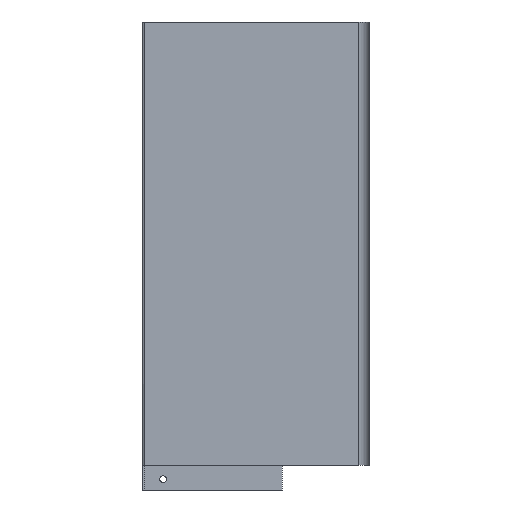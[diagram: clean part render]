
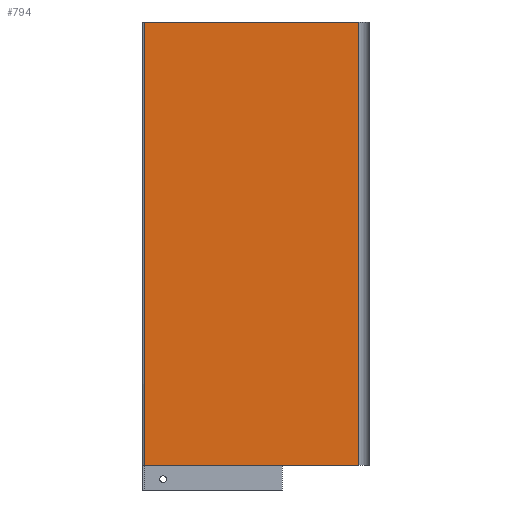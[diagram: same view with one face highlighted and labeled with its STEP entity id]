
A CAD part, left-side view. The second image highlights one B-rep face of the part: STEP entity #794.
In plain terms, the highlighted planar face has unit normal (-1, 0, 0).
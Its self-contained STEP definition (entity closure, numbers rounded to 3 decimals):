
#25 = PLANE ( 'NONE',  #335 ) ;
#65 = VECTOR ( 'NONE', #802, 1000. ) ;
#69 = ORIENTED_EDGE ( 'NONE', *, *, #395, .T. ) ;
#77 = DIRECTION ( 'NONE',  ( 0., 0., 1. ) ) ;
#96 = DIRECTION ( 'NONE',  ( 1., 0., 0. ) ) ;
#119 = VECTOR ( 'NONE', #494, 1000. ) ;
#128 = EDGE_LOOP ( 'NONE', ( #552, #556, #69, #665 ) ) ;
#233 = CARTESIAN_POINT ( 'NONE',  ( -8., 14.6, -499.403 ) ) ;
#250 = VERTEX_POINT ( 'NONE', #796 ) ;
#265 = CARTESIAN_POINT ( 'NONE',  ( -8., -144.438, -499.403 ) ) ;
#280 = EDGE_CURVE ( 'NONE', #474, #663, #871, .T. ) ;
#294 = LINE ( 'NONE', #360, #119 ) ;
#318 = CARTESIAN_POINT ( 'NONE',  ( -8., -144.438, 0. ) ) ;
#335 = AXIS2_PLACEMENT_3D ( 'NONE', #422, #96, #554 ) ;
#360 = CARTESIAN_POINT ( 'NONE',  ( -8., -144.438, -329. ) ) ;
#383 = DIRECTION ( 'NONE',  ( 0., 1., 0. ) ) ;
#395 = EDGE_CURVE ( 'NONE', #250, #663, #551, .T. ) ;
#422 = CARTESIAN_POINT ( 'NONE',  ( -8., -144.438, -499.403 ) ) ;
#457 = CARTESIAN_POINT ( 'NONE',  ( -8., 14.6, -329. ) ) ;
#474 = VERTEX_POINT ( 'NONE', #457 ) ;
#481 = VECTOR ( 'NONE', #77, 1000. ) ;
#494 = DIRECTION ( 'NONE',  ( 0., -1., 0. ) ) ;
#549 = FACE_OUTER_BOUND ( 'NONE', #128, .T. ) ;
#550 = VERTEX_POINT ( 'NONE', #595 ) ;
#551 = LINE ( 'NONE', #318, #785 ) ;
#552 = ORIENTED_EDGE ( 'NONE', *, *, #827, .T. ) ;
#554 = DIRECTION ( 'NONE',  ( 0., 1., 0. ) ) ;
#556 = ORIENTED_EDGE ( 'NONE', *, *, #587, .T. ) ;
#587 = EDGE_CURVE ( 'NONE', #550, #250, #653, .T. ) ;
#595 = CARTESIAN_POINT ( 'NONE',  ( -8., -144.438, -329. ) ) ;
#653 = LINE ( 'NONE', #265, #481 ) ;
#663 = VERTEX_POINT ( 'NONE', #819 ) ;
#665 = ORIENTED_EDGE ( 'NONE', *, *, #280, .F. ) ;
#785 = VECTOR ( 'NONE', #383, 1000. ) ;
#794 = ADVANCED_FACE ( 'NONE', ( #549 ), #25, .F. ) ;
#796 = CARTESIAN_POINT ( 'NONE',  ( -8., -144.438, 0. ) ) ;
#802 = DIRECTION ( 'NONE',  ( 0., 0., 1. ) ) ;
#819 = CARTESIAN_POINT ( 'NONE',  ( -8., 14.6, 0. ) ) ;
#827 = EDGE_CURVE ( 'NONE', #474, #550, #294, .T. ) ;
#871 = LINE ( 'NONE', #233, #65 ) ;
